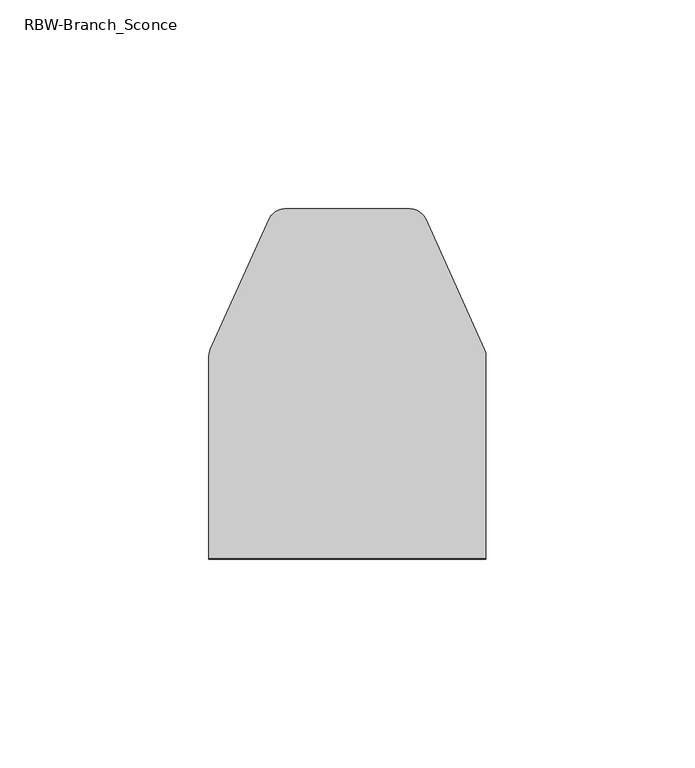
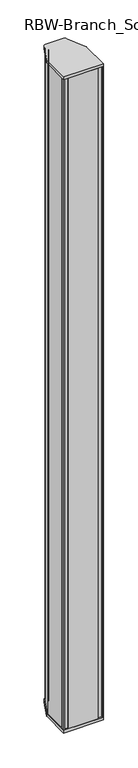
"""IFC4 building model written with IfcOpenShell, lengths in millimetres: light fixture geometry, RBW-Branch_Sconce : BRES-L."""

from ifc_helpers import new_model, si_unit, point, frame, frame_2d, origin, place, context, project, spatial, polyline, circle_curve, trimmed, segment, composite_curve, outline, extrude, source, transform, mapped, element, save
from ifc_brep_helpers import plane_surface, cylinder_surface, revolved_surface, advanced_brep


def rbw_branch_sconce_a8d3748a(model_context):
    return source(origin(), model_context, "Body", "SolidModel", [
        extrude(outline(composite_curve([segment(trimmed(circle_curve(frame_2d((-29.1703125, 224.5714396)), 3.96875), [point((-33.1390625, 224.5714396))], [point((-32.7874435, 226.2046388))], False, "CARTESIAN"), True, "CONTINUOUS"), segment(polyline([(-32.7874435, 226.2046388), (-18.6829515, 257.442588)]), True, "CONTINUOUS"), segment(trimmed(circle_curve(frame_2d((-15.0658205, 255.8093887)), 3.96875), [point((-18.6829515, 257.442588))], [point((-15.0658205, 259.7781387))], False, "CARTESIAN"), True, "CONTINUOUS"), segment(polyline([(-15.0658205, 259.7781387), (15.0658205, 259.7781387)]), True, "CONTINUOUS"), segment(trimmed(circle_curve(frame_2d((15.0658205, 255.8093887)), 3.96875), [point((15.0658205, 259.7781387))], [point((18.6829515, 257.442588))], False, "CARTESIAN"), True, "CONTINUOUS"), segment(polyline([(18.6829515, 257.442588), (32.7874435, 226.2046388)]), True, "CONTINUOUS"), segment(trimmed(circle_curve(frame_2d((29.1703125, 224.5714396)), 3.96875), [point((32.7874435, 226.2046388))], [point((33.1390625, 224.5714396))], False, "CARTESIAN"), True, "CONTINUOUS"), segment(polyline([(33.1390625, 224.5714396), (33.1390625, 176.2125), (-33.1390625, 176.2125), (-33.1390625, 224.5714396)]), True, "CONTINUOUS")], self_intersect=False)), frame((0.0, 0.0, 2422.2273437), z_axis=(0.0, 0.0, 1.0), x_axis=(1.0, 0.0, 0.0)), (0.0, 0.0, 1.0), 4.7625),
        extrude(outline(composite_curve([segment(trimmed(circle_curve(frame_2d((-29.1703125, 224.5714396)), 3.96875), [point((-33.1390625, 224.5714396))], [point((-32.7874435, 226.2046388))], False, "CARTESIAN"), True, "CONTINUOUS"), segment(polyline([(-32.7874435, 226.2046388), (-18.6829515, 257.442588)]), True, "CONTINUOUS"), segment(trimmed(circle_curve(frame_2d((-15.0658205, 255.8093887)), 3.96875), [point((-18.6829515, 257.442588))], [point((-15.0658205, 259.7781387))], False, "CARTESIAN"), True, "CONTINUOUS"), segment(polyline([(-15.0658205, 259.7781387), (15.0658205, 259.7781387)]), True, "CONTINUOUS"), segment(trimmed(circle_curve(frame_2d((15.0658205, 255.8093887)), 3.96875), [point((15.0658205, 259.7781387))], [point((18.6829515, 257.442588))], False, "CARTESIAN"), True, "CONTINUOUS"), segment(polyline([(18.6829515, 257.442588), (32.7874435, 226.2046388)]), True, "CONTINUOUS"), segment(trimmed(circle_curve(frame_2d((29.1703125, 224.5714396)), 3.96875), [point((32.7874435, 226.2046388))], [point((33.1390625, 224.5714396))], False, "CARTESIAN"), True, "CONTINUOUS"), segment(polyline([(33.1390625, 224.5714396), (33.1390625, 176.2125), (-33.1390625, 176.2125), (-33.1390625, 224.5714396)]), True, "CONTINUOUS")], self_intersect=False)), frame((0.0, 0.0, 1270.0), z_axis=(0.0, 0.0, 1.0), x_axis=(1.0, 0.0, 0.0)), (0.0, 0.0, 1.0), 4.7625),
        extrude(outline(polyline([(24.6399969, 177.7596923), (24.6399969, 176.2125), (-24.6399969, 176.2125), (-24.6399969, 177.7596923), (24.6399969, 177.7596923)])), frame((0.0, 0.0, 1274.7625), z_axis=(0.0, 0.0, 1.0), x_axis=(1.0, 0.0, 0.0)), (0.0, 0.0, 1.0), 1147.4648437),
        extrude(outline(composite_curve([segment(polyline([(-31.110477, 179.9808985), (-31.110477, 224.021969)]), True, "CONTINUOUS"), segment(trimmed(circle_curve(frame_2d((-27.5248794, 224.021969)), 3.5855977), [point((-31.110477, 224.021969))], [point((-30.7964256, 225.4894485))], False, "CARTESIAN"), True, "CONTINUOUS"), segment(polyline([(-30.7964256, 225.4894485), (-16.8462004, 256.5895809)]), True, "CONTINUOUS"), segment(trimmed(circle_curve(frame_2d((-15.0356307, 255.7774347)), 1.984375), [point((-16.8462004, 256.5895809))], [point((-15.0356307, 257.7618097))], False, "CARTESIAN"), True, "CONTINUOUS"), segment(polyline([(-15.0356307, 257.7618097), (15.0356307, 257.7618097)]), True, "CONTINUOUS"), segment(trimmed(circle_curve(frame_2d((15.0356307, 255.7774347)), 1.984375), [point((15.0356307, 257.7618097))], [point((16.8462004, 256.5895809))], False, "CARTESIAN"), True, "CONTINUOUS"), segment(polyline([(16.8462004, 256.5895809), (30.7964256, 225.4894485)]), True, "CONTINUOUS"), segment(trimmed(circle_curve(frame_2d((27.5248794, 224.021969)), 3.5855977), [point((30.7964256, 225.4894485))], [point((31.110477, 224.021969))], False, "CARTESIAN"), True, "CONTINUOUS"), segment(polyline([(31.110477, 224.021969), (31.110477, 179.9808985), (30.1182895, 179.9808985), (30.1182895, 224.021969)]), True, "CONTINUOUS"), segment(trimmed(circle_curve(frame_2d((27.3264419, 224.021969)), 2.7918477), [point((30.1182895, 224.021969))], [point((29.8737602, 225.16459))], True, "CARTESIAN"), True, "CONTINUOUS"), segment(polyline([(29.8737602, 225.16459), (15.923535, 256.2647224)]), True, "CONTINUOUS"), segment(trimmed(circle_curve(frame_2d((14.8371932, 255.7774347)), 1.190625), [point((15.923535, 256.2647224))], [point((14.8371932, 256.9680597))], True, "CARTESIAN"), True, "CONTINUOUS"), segment(polyline([(14.8371932, 256.9680597), (-14.8371932, 256.9680597)]), True, "CONTINUOUS"), segment(trimmed(circle_curve(frame_2d((-14.8371932, 255.7774347)), 1.190625), [point((-14.8371932, 256.9680597))], [point((-15.923535, 256.2647224))], True, "CARTESIAN"), True, "CONTINUOUS"), segment(polyline([(-15.923535, 256.2647224), (-29.8737602, 225.16459)]), True, "CONTINUOUS"), segment(trimmed(circle_curve(frame_2d((-27.3264419, 224.021969)), 2.7918477), [point((-29.8737602, 225.16459))], [point((-30.1182895, 224.021969))], True, "CARTESIAN"), True, "CONTINUOUS"), segment(polyline([(-30.1182895, 224.021969), (-30.1182895, 179.9808985), (-31.110477, 179.9808985)]), True, "CONTINUOUS")], self_intersect=False)), frame((0.0, 0.0, 1274.7625), z_axis=(0.0, 0.0, 1.0), x_axis=(1.0, 0.0, 0.0)), (0.0, 0.0, 1.0), 1147.4648437),
        extrude(outline(polyline([(-33.1390625, 176.2125), (-33.1390625, 181.3017242), (-32.0194247, 181.3017242), (-32.0194247, 179.5714034), (-30.0957715, 179.5714034), (-30.0957715, 222.1084753), (30.0957715, 222.1084753), (30.0957715, 179.5714034), (32.0194247, 179.5714034), (32.0194247, 181.3017242), (33.1390625, 181.3017242), (33.1390625, 176.2125), (31.8158534, 176.2125), (31.8158534, 178.2482285), (17.3478991, 178.2482285), (17.3478991, 179.5714034), (28.7725647, 179.5714034), (28.7725647, 220.8148148), (-28.7725647, 220.8148148), (-28.7725647, 179.5714034), (-17.3478991, 179.5714034), (-17.3478991, 178.2482285), (-31.8158534, 178.2482285), (-31.8158534, 176.2125), (-33.1390625, 176.2125)])), frame((0.0, 0.0, 1274.7625), z_axis=(0.0, 0.0, 1.0), x_axis=(1.0, 0.0, 0.0)), (0.0, 0.0, 1.0), 1147.4648437),
        advanced_brep(
        [(-27.2864128, 224.2551117, 2422.2273437), (-27.2864128, 222.1084753, 2422.2273437), (-25.6989128, 222.1084753, 2422.2273437), (-25.6989128, 224.0609321, 2422.2273437), (-13.4703808, 251.1441484, 2422.2273437), (-12.3155675, 251.8290085, 2422.2273437), (12.3155675, 251.8290085, 2422.2273437), (13.4153876, 251.1182122, 2422.2273437), (25.6989128, 223.8524826, 2422.2273437), (25.6989128, 222.1084753, 2422.2273437), (27.2864128, 222.1084753, 2422.2273437), (27.2864128, 224.194265, 2422.2273437), (14.862775, 251.7703059, 2422.2273437), (12.3155675, 253.4165085, 2422.2273437), (-12.3155675, 253.4165085, 2422.2273437), (-14.8618241, 251.7724141, 2422.2273437), (-27.2864128, 224.2551117, 1274.7625), (-14.8618241, 251.7724141, 1274.7625), (-12.3155675, 253.4165085, 1274.7625), (12.3155675, 253.4165085, 1274.7625), (14.862775, 251.7703059, 1274.7625), (27.2864128, 224.194265, 1274.7625), (27.2864128, 222.1084753, 1274.7625), (25.6989128, 222.1084753, 1274.7625), (25.6989128, 223.8524826, 1274.7625), (13.4153876, 251.1182122, 1274.7625), (12.3155675, 251.8290085, 1274.7625), (-12.3155675, 251.8290085, 1274.7625), (-13.4149733, 251.1191309, 1274.7625), (-25.6989128, 224.0609321, 1274.7625), (-25.6989128, 222.1084753, 1274.7625), (-27.2864128, 222.1084753, 1274.7625)],
        [
            (0, 1),
            (1, 2),
            (2, 3),
            (3, 4),
            (4, 5, circle_curve(frame((-12.3155675, 250.6227305, 2422.2273437), z_axis=(0.0, 0.0, -1.0), x_axis=(0.0, 1.0, 0.0)), 1.2062779)),
            (5, 6),
            (6, 7, circle_curve(frame((12.3155675, 250.6227305, 2422.2273437), z_axis=(0.0, 0.0, -1.0), x_axis=(0.0, 1.0, 0.0)), 1.2062779)),
            (7, 8),
            (8, 9),
            (9, 10),
            (10, 11),
            (11, 12),
            (12, 13, circle_curve(frame((12.3155675, 250.6227305, 2422.2273437), z_axis=(0.0, 0.0, 1.0), x_axis=(0.0, 1.0, 0.0)), 2.7937779)),
            (13, 14),
            (14, 15, circle_curve(frame((-12.3155675, 250.6227305, 2422.2273437), z_axis=(0.0, 0.0, 1.0), x_axis=(0.0, 1.0, 0.0)), 2.7937779)),
            (15, 0),
            (16, 17),
            (17, 18, circle_curve(frame((-12.3155675, 250.6227305, 1274.7625), z_axis=(0.0, 0.0, -1.0), x_axis=(0.0, 1.0, 0.0)), 2.7937779)),
            (18, 19),
            (19, 20, circle_curve(frame((12.3155675, 250.6227305, 1274.7625), z_axis=(0.0, 0.0, -1.0), x_axis=(0.0, 1.0, 0.0)), 2.7937779)),
            (20, 21),
            (21, 22),
            (22, 23),
            (23, 24),
            (24, 25),
            (25, 26, circle_curve(frame((12.3155675, 250.6227305, 1274.7625), z_axis=(0.0, 0.0, 1.0), x_axis=(0.0, 1.0, 0.0)), 1.2062779)),
            (26, 27),
            (27, 28, circle_curve(frame((-12.3155675, 250.6227305, 1274.7625), z_axis=(0.0, 0.0, 1.0), x_axis=(0.0, 1.0, 0.0)), 1.2062779)),
            (28, 29),
            (29, 30),
            (30, 31),
            (31, 16),
            (0, 16),
            (31, 1),
            (30, 2),
            (29, 3),
            (4, 28),
            (27, 5),
            (26, 6),
            (25, 7),
            (24, 8),
            (23, 9),
            (22, 10),
            (21, 11),
            (20, 12),
            (19, 13),
            (18, 14),
            (17, 15),
        ],
        [
            plane_surface(frame((-27.2864128, 222.1084753, 2422.2273437), z_axis=(0.0, 0.0, 1.0), x_axis=(0.0, -1.0, 0.0))),
            plane_surface(frame((-27.2864128, 222.1084753, 1274.7625), z_axis=(0.0, 0.0, -1.0), x_axis=(0.0, 1.0, 0.0))),
            plane_surface(frame((-27.2864128, 224.2551117, 2422.2273437), z_axis=(-1.0, 0.0, 0.0), x_axis=(0.0, 0.0, -1.0))),
            plane_surface(frame((-27.2864128, 222.1084753, 2422.2273437), z_axis=(0.0, -1.0, 0.0), x_axis=(0.0, 0.0, -1.0))),
            plane_surface(frame((-25.6989128, 222.1084753, 2422.2273437), z_axis=(1.0, 0.0, 0.0), x_axis=(0.0, 0.0, -1.0))),
            revolved_surface(polyline([(-12.3155675, 251.8290084, 1274.7625), (-12.3155675, 251.8290084, 2422.2273437)]), (-12.3155675, 250.6227305, 1274.7625), (0.0, 0.0, -1.0)),
            plane_surface(frame((-12.3155675, 251.8290085, 2422.2273437), z_axis=(0.0, -1.0, 0.0), x_axis=(0.0, 0.0, -1.0))),
            revolved_surface(polyline([(12.3155675, 251.8290084, 1274.7625), (12.3155675, 251.8290084, 2422.2273437)]), (12.3155675, 250.6227305, 1274.7625), (0.0, 0.0, -1.0)),
            plane_surface(frame((13.4153876, 251.1182122, 2422.2273437), z_axis=(-0.9117468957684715, -0.4107524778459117, 0.0), x_axis=(0.0, 0.0, -1.0))),
            plane_surface(frame((25.6989128, 223.8524826, 2422.2273437), z_axis=(-1.0, 0.0, 0.0), x_axis=(0.0, 0.0, -1.0))),
            plane_surface(frame((25.6989128, 222.1084753, 2422.2273437), z_axis=(0.0, -1.0, 0.0), x_axis=(0.0, 0.0, -1.0))),
            plane_surface(frame((27.2864128, 222.1084753, 2422.2273437), z_axis=(1.0, 0.0, 0.0), x_axis=(0.0, 0.0, -1.0))),
            plane_surface(frame((27.2864128, 224.194265, 2422.2273437), z_axis=(0.9117430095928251, 0.4107611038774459, 0.0), x_axis=(0.0, 0.0, -1.0))),
            cylinder_surface(frame((12.3155675, 250.6227305, 1274.7625), z_axis=(0.0, 0.0, 1.0), x_axis=(0.0, 1.0, 0.0)), 2.7937779),
            plane_surface(frame((12.3155675, 253.4165085, 2422.2273437), z_axis=(0.0, 1.0, 0.0), x_axis=(0.0, 0.0, -1.0))),
            cylinder_surface(frame((-12.3155675, 250.6227305, 1274.7625), z_axis=(0.0, 0.0, 1.0), x_axis=(0.0, 1.0, 0.0)), 2.7937779),
            plane_surface(frame((-25.6989128, 224.0609321, 2422.2273437), z_axis=(0.9114033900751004, -0.41151410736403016, 0.0), x_axis=(0.0, 0.0, -1.0))),
            plane_surface(frame((-14.8618241, 251.7724141, 2422.2273437), z_axis=(-0.911402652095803, 0.41151574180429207, 0.0), x_axis=(0.0, 0.0, -1.0))),
        ],
        [
            (0, [[1, 2, 3, 4, 5, 6, 7, 8, 9, 10, 11, 12, 13, 14, 15, 16]]),
            (1, [[17, 18, 19, 20, 21, 22, 23, 24, 25, 26, 27, 28, 29, 30, 31, 32]]),
            (2, [[-1, 33, -32, 34]]),
            (3, [[-2, -34, -31, 35]]),
            (4, [[-3, -35, -30, 36]]),
            (5, [[-5, 37, -28, 38]]),
            (6, [[-6, -38, -27, 39]]),
            (7, [[-7, -39, -26, 40]]),
            (8, [[-8, -40, -25, 41]]),
            (9, [[-9, -41, -24, 42]]),
            (10, [[-10, -42, -23, 43]]),
            (11, [[-11, -43, -22, 44]]),
            (12, [[-12, -44, -21, 45]]),
            (13, [[-13, -45, -20, 46]]),
            (14, [[-14, -46, -19, 47]]),
            (15, [[-15, -47, -18, 48]]),
            (16, [[-4, -36, -29, -37]]),
            (17, [[-16, -48, -17, -33]]),
        ],
    ),
        extrude(outline(composite_curve([segment(trimmed(circle_curve(frame_2d((-27.6240981, 224.2173149)), 4.3793477), [point((-32.0034458, 224.2173149))], [point((-31.6198722, 226.0096529))], False, "CARTESIAN"), True, "CONTINUOUS"), segment(polyline([(-31.6198722, 226.0096529), (-17.669647, 257.1097853)]), True, "CONTINUOUS"), segment(trimmed(circle_curve(frame_2d((-15.1348494, 255.9727806)), 2.778125), [point((-17.669647, 257.1097853))], [point((-15.1348494, 258.7509056))], False, "CARTESIAN"), True, "CONTINUOUS"), segment(polyline([(-15.1348494, 258.7509056), (15.1348494, 258.7509056)]), True, "CONTINUOUS"), segment(trimmed(circle_curve(frame_2d((15.1348494, 255.9727806)), 2.778125), [point((15.1348494, 258.7509056))], [point((17.669647, 257.1097853))], False, "CARTESIAN"), True, "CONTINUOUS"), segment(polyline([(17.669647, 257.1097853), (31.6198722, 226.0096529)]), True, "CONTINUOUS"), segment(trimmed(circle_curve(frame_2d((27.6240981, 224.2173149)), 4.3793477), [point((31.6198722, 226.0096529))], [point((32.0034458, 224.2173149))], False, "CARTESIAN"), True, "CONTINUOUS"), segment(polyline([(32.0034458, 224.2173149), (32.0034458, 179.9778069), (31.2096958, 179.9778069), (31.2096958, 224.2173149)]), True, "CONTINUOUS"), segment(trimmed(circle_curve(frame_2d((27.6240981, 224.2173149)), 3.5855977), [point((31.2096958, 224.2173149))], [point((30.8956443, 225.6847944))], True, "CARTESIAN"), True, "CONTINUOUS"), segment(polyline([(30.8956443, 225.6847944), (16.9454191, 256.7849268)]), True, "CONTINUOUS"), segment(trimmed(circle_curve(frame_2d((15.1348494, 255.9727806)), 1.984375), [point((16.9454191, 256.7849268))], [point((15.1348494, 257.9571556))], True, "CARTESIAN"), True, "CONTINUOUS"), segment(polyline([(15.1348494, 257.9571556), (-15.1348494, 257.9571556)]), True, "CONTINUOUS"), segment(trimmed(circle_curve(frame_2d((-15.1348494, 255.9727806)), 1.984375), [point((-15.1348494, 257.9571556))], [point((-16.9454191, 256.7849268))], True, "CARTESIAN"), True, "CONTINUOUS"), segment(polyline([(-16.9454191, 256.7849268), (-30.8956443, 225.6847944)]), True, "CONTINUOUS"), segment(trimmed(circle_curve(frame_2d((-27.6240981, 224.2173149)), 3.5855977), [point((-30.8956443, 225.6847944))], [point((-31.2096958, 224.2173149))], True, "CARTESIAN"), True, "CONTINUOUS"), segment(polyline([(-31.2096958, 224.2173149), (-31.2096958, 179.9778069), (-32.0034458, 179.9778069), (-32.0034458, 224.2173149)]), True, "CONTINUOUS")], self_intersect=False)), frame((0.0, 0.0, 1274.7625), z_axis=(0.0, 0.0, 1.0), x_axis=(1.0, 0.0, 0.0)), (0.0, 0.0, 1.0), 1147.4648437),
    ])


if __name__ == "__main__":
    model = new_model("IFC4")
    model_context = context("Model", 3, world=origin())
    ifc_project = project(units=[si_unit("LENGTHUNIT", "METRE", prefix="MILLI")], contexts=[model_context])
    site = spatial("IfcSite", under=ifc_project)
    building = spatial("IfcBuilding", under=site)
    placement = place(None, origin())
    rbw_branch_sconce_shape = rbw_branch_sconce_a8d3748a(model_context)
    element("IfcLightFixture", 1, ObjectType="RBW-Branch_Sconce : BRES-L", at=placement, inside=building, context=model_context, shape_type="MappedRepresentation", body=[
        mapped(rbw_branch_sconce_shape, transform((0.0, 0.0, 0.0), x_axis=(1.0, 0.0, 0.0), y_axis=(0.0, 1.0, 0.0), z_axis=(0.0, 0.0, 1.0))),
    ])
    save(model, "model.ifc")
